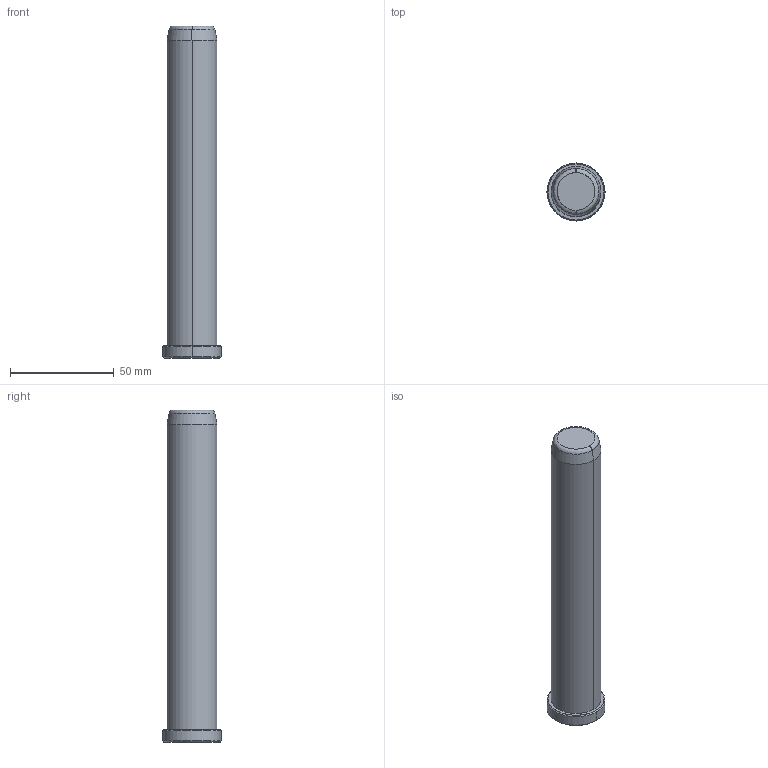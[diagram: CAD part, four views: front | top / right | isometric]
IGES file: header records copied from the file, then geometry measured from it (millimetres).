
Start section: START RECORD GO HERE.
Global section: file name: B81824160.igs; native system: DASSAULT SYSTEMES CATIA V5 R20 - www.3ds.com; preprocessor: CATIA Version 5 Release 20 ; author: Utente; organization: NB04-ASUS; date: 20200419.172218; units: millimetre
Bounding box: 28 x 28 x 160 mm (x, y, z)
Surface area: 13171.2 mm2 (no closed solid volume)
Topology: 0 solids, 0 shells, 17 faces, 68 edges, 68 vertices
Faces by surface type: revolution 14, plane 3
